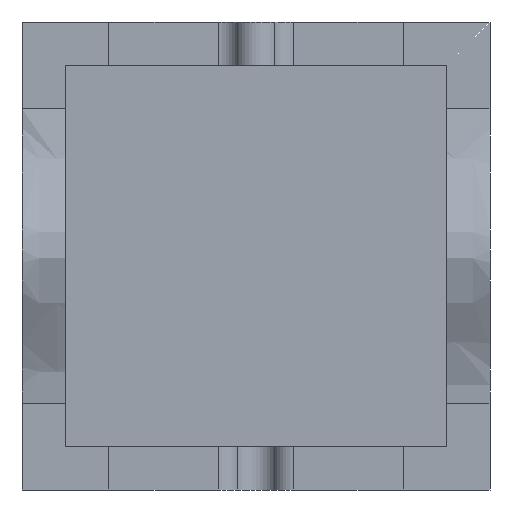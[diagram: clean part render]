
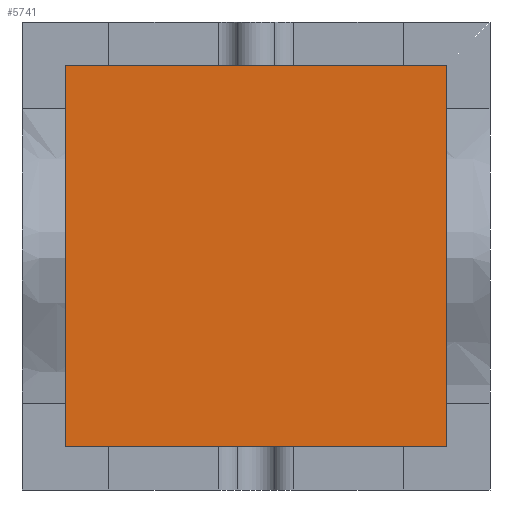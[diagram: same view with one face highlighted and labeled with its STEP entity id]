
A CAD part, front view. The second image highlights one B-rep face of the part: STEP entity #5741.
In plain terms, the highlighted planar face has unit normal (0, -1, 0).
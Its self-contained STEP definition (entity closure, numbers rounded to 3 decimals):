
#5615=CARTESIAN_POINT('Vertex',(-20.,-30.,-20.)) ;
#5620=CARTESIAN_POINT('Line Origine',(-20.,-30.,68.)) ;
#5624=CARTESIAN_POINT('Vertex',(-20.,-30.,156.)) ;
#5651=CARTESIAN_POINT('Line Origine',(68.,-30.,156.)) ;
#5655=CARTESIAN_POINT('Vertex',(156.,-30.,156.)) ;
#5682=CARTESIAN_POINT('Line Origine',(156.,-30.,68.)) ;
#5686=CARTESIAN_POINT('Vertex',(156.,-30.,-20.)) ;
#5713=CARTESIAN_POINT('Line Origine',(68.,-30.,-20.)) ;
#5730=CARTESIAN_POINT('Axis2P3D Location',(0.,-30.,0.)) ;
#5621=DIRECTION('Vector Direction',(0.,0.,-1.)) ;
#5652=DIRECTION('Vector Direction',(1.,0.,0.)) ;
#5683=DIRECTION('Vector Direction',(0.,0.,1.)) ;
#5714=DIRECTION('Vector Direction',(-1.,0.,0.)) ;
#5731=DIRECTION('Axis2P3D Direction',(0.,1.,0.)) ;
#5732=DIRECTION('Axis2P3D XDirection',(-1.,0.,0.)) ;
#5733=AXIS2_PLACEMENT_3D('Plane Axis2P3D',#5730,#5731,#5732) ;
#5736=ORIENTED_EDGE('',*,*,#5717,.F.) ;
#5737=ORIENTED_EDGE('',*,*,#5688,.F.) ;
#5738=ORIENTED_EDGE('',*,*,#5657,.F.) ;
#5739=ORIENTED_EDGE('',*,*,#5626,.F.) ;
#5622=VECTOR('Line Direction',#5621,1.) ;
#5653=VECTOR('Line Direction',#5652,1.) ;
#5684=VECTOR('Line Direction',#5683,1.) ;
#5715=VECTOR('Line Direction',#5714,1.) ;
#5741=ADVANCED_FACE('Cavity-molde',(#5740),#5734,.F.) ;
#5626=EDGE_CURVE('',#5616,#5625,#5623,.F.) ;
#5657=EDGE_CURVE('',#5625,#5656,#5654,.T.) ;
#5688=EDGE_CURVE('',#5656,#5687,#5685,.F.) ;
#5717=EDGE_CURVE('',#5687,#5616,#5716,.T.) ;
#5735=EDGE_LOOP('',(#5736,#5737,#5738,#5739)) ;
#5740=FACE_OUTER_BOUND('',#5735,.T.) ;
#5623=LINE('Line',#5620,#5622) ;
#5654=LINE('Line',#5651,#5653) ;
#5685=LINE('Line',#5682,#5684) ;
#5716=LINE('Line',#5713,#5715) ;
#5734=PLANE('',#5733) ;
#5616=VERTEX_POINT('',#5615) ;
#5625=VERTEX_POINT('',#5624) ;
#5656=VERTEX_POINT('',#5655) ;
#5687=VERTEX_POINT('',#5686) ;
